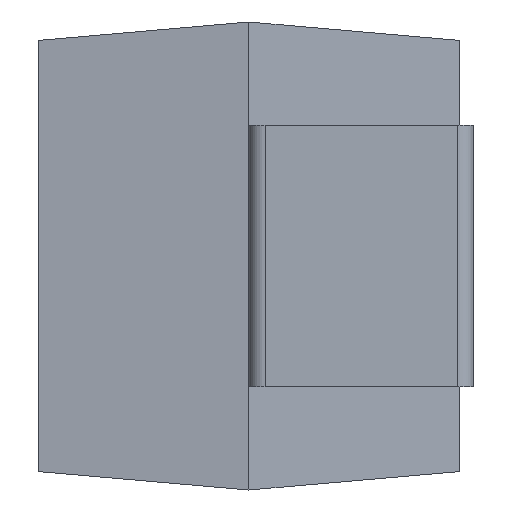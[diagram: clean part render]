
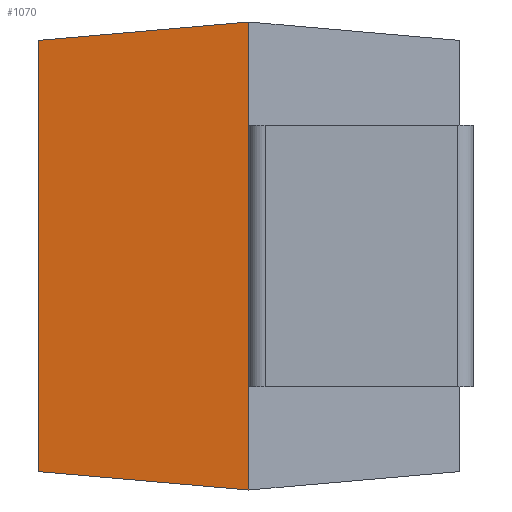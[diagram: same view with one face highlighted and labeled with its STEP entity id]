
A CAD part, left-side view. The second image highlights one B-rep face of the part: STEP entity #1070.
In plain terms, the highlighted planar face has unit normal (-0.996, 0.087, 0).
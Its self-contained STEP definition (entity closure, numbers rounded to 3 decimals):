
#38 = LINE ( 'NONE', #695, #316 ) ;
#68 = PLANE ( 'NONE',  #1035 ) ;
#88 = CARTESIAN_POINT ( 'NONE',  ( -3.331, 4., -1.981 ) ) ;
#140 = EDGE_CURVE ( 'NONE', #598, #1324, #637, .T. ) ;
#188 = VECTOR ( 'NONE', #1427, 1000. ) ;
#216 = CARTESIAN_POINT ( 'NONE',  ( -3.5, 2.065, -1.2 ) ) ;
#221 = VECTOR ( 'NONE', #954, 1000. ) ;
#260 = DIRECTION ( 'NONE',  ( 0., 0., 1. ) ) ;
#316 = VECTOR ( 'NONE', #1352, 1000. ) ;
#376 = DIRECTION ( 'NONE',  ( -0.996, 0.087, 0. ) ) ;
#394 = ORIENTED_EDGE ( 'NONE', *, *, #1340, .T. ) ;
#421 = LINE ( 'NONE', #1736, #847 ) ;
#433 = CARTESIAN_POINT ( 'NONE',  ( -3.5, 2.065, 2.15 ) ) ;
#444 = LINE ( 'NONE', #1919, #1159 ) ;
#470 = ORIENTED_EDGE ( 'NONE', *, *, #945, .F. ) ;
#492 = EDGE_CURVE ( 'NONE', #966, #2110, #605, .T. ) ;
#598 = VERTEX_POINT ( 'NONE', #216 ) ;
#605 = LINE ( 'NONE', #1109, #188 ) ;
#637 = LINE ( 'NONE', #1116, #221 ) ;
#695 = CARTESIAN_POINT ( 'NONE',  ( -3.331, 4., 2.15 ) ) ;
#837 = ORIENTED_EDGE ( 'NONE', *, *, #140, .T. ) ;
#847 = VECTOR ( 'NONE', #260, 1000. ) ;
#945 = EDGE_CURVE ( 'NONE', #2158, #1729, #444, .T. ) ;
#951 = EDGE_CURVE ( 'NONE', #1324, #1729, #421, .T. ) ;
#954 = DIRECTION ( 'NONE',  ( 0., 0., 1. ) ) ;
#966 = VERTEX_POINT ( 'NONE', #88 ) ;
#1016 = ORIENTED_EDGE ( 'NONE', *, *, #951, .T. ) ;
#1035 = AXIS2_PLACEMENT_3D ( 'NONE', #2022, #376, #1226 ) ;
#1049 = FACE_OUTER_BOUND ( 'NONE', #2107, .T. ) ;
#1070 = ADVANCED_FACE ( 'NONE', ( #1049 ), #68, .T. ) ;
#1109 = CARTESIAN_POINT ( 'NONE',  ( -3.468, 2.436, -2.118 ) ) ;
#1116 = CARTESIAN_POINT ( 'NONE',  ( -3.5, 2.065, -1.2 ) ) ;
#1159 = VECTOR ( 'NONE', #1430, 1000. ) ;
#1226 = DIRECTION ( 'NONE',  ( -0.087, -0.996, 0. ) ) ;
#1297 = CARTESIAN_POINT ( 'NONE',  ( -3.5, 2.065, 1.2 ) ) ;
#1324 = VERTEX_POINT ( 'NONE', #1297 ) ;
#1340 = EDGE_CURVE ( 'NONE', #2110, #598, #2082, .T. ) ;
#1352 = DIRECTION ( 'NONE',  ( 0., 0., 1. ) ) ;
#1402 = CARTESIAN_POINT ( 'NONE',  ( -3.5, 2.065, 2.15 ) ) ;
#1427 = DIRECTION ( 'NONE',  ( -0.087, -0.992, -0.087 ) ) ;
#1430 = DIRECTION ( 'NONE',  ( -0.087, -0.992, 0.087 ) ) ;
#1463 = CARTESIAN_POINT ( 'NONE',  ( -3.5, 2.065, -2.15 ) ) ;
#1480 = VECTOR ( 'NONE', #1749, 1000. ) ;
#1531 = CARTESIAN_POINT ( 'NONE',  ( -3.331, 4., 1.981 ) ) ;
#1566 = ORIENTED_EDGE ( 'NONE', *, *, #492, .T. ) ;
#1643 = ORIENTED_EDGE ( 'NONE', *, *, #1675, .F. ) ;
#1675 = EDGE_CURVE ( 'NONE', #966, #2158, #38, .T. ) ;
#1729 = VERTEX_POINT ( 'NONE', #1402 ) ;
#1736 = CARTESIAN_POINT ( 'NONE',  ( -3.5, 2.065, 2.15 ) ) ;
#1749 = DIRECTION ( 'NONE',  ( 0., 0., 1. ) ) ;
#1919 = CARTESIAN_POINT ( 'NONE',  ( -3.447, 2.668, 2.097 ) ) ;
#2022 = CARTESIAN_POINT ( 'NONE',  ( -3.5, 2.065, 2.15 ) ) ;
#2082 = LINE ( 'NONE', #433, #1480 ) ;
#2107 = EDGE_LOOP ( 'NONE', ( #394, #837, #1016, #470, #1643, #1566 ) ) ;
#2110 = VERTEX_POINT ( 'NONE', #1463 ) ;
#2158 = VERTEX_POINT ( 'NONE', #1531 ) ;
